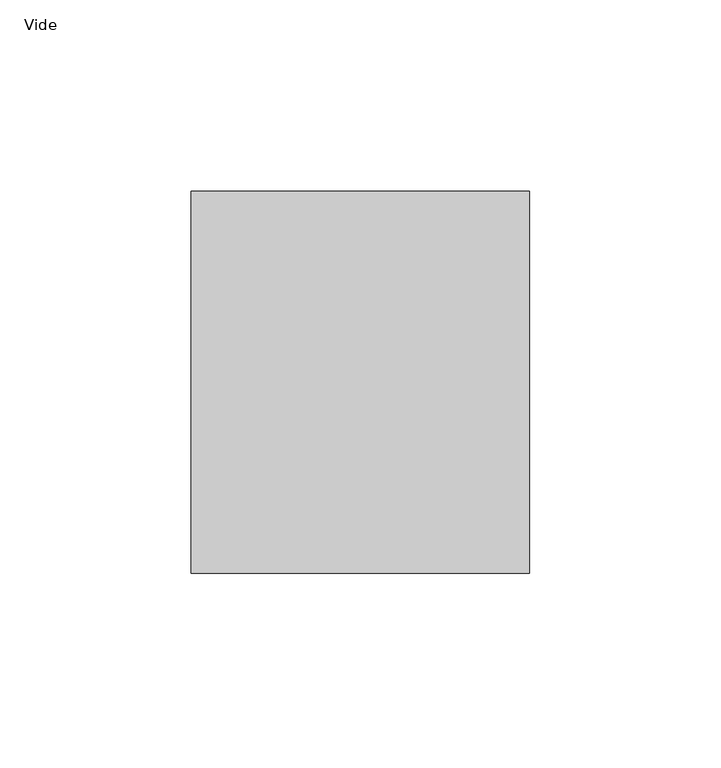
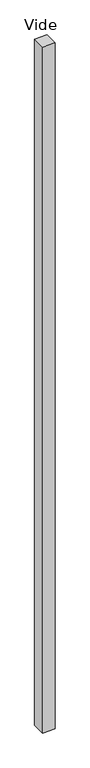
"""IFC4 building model written with IfcOpenShell, lengths in millimetres: plate geometry, Panneau système vide : Vide."""

from ifc_helpers import new_model, si_unit, origin, origin_with_axes, place, context, project, spatial, polyline, outline, extrude, source, transform, mapped, element, save


def vide_70e162ae(model_context):
    return source(origin(), model_context, "Body", "SweptSolid", [
        extrude(outline(polyline([(44.3099743, 50.0), (-44.3099743, 50.0), (-44.3099743, 150.0), (44.3099743, 150.0), (44.3099743, 50.0)])), origin_with_axes(), (0.0, 0.0, 1.0), 5176.3809021),
    ])


if __name__ == "__main__":
    model = new_model("IFC4")
    model_context = context("Model", 3, world=origin())
    ifc_project = project(units=[si_unit("LENGTHUNIT", "METRE", prefix="MILLI")], contexts=[model_context])
    site = spatial("IfcSite", under=ifc_project)
    building = spatial("IfcBuilding", under=site)
    placement = place(None, origin())
    vide_shape = vide_70e162ae(model_context)
    element("IfcPlate", 1, ObjectType="Panneau système vide : Vide", at=placement, inside=building, context=model_context, shape_type="MappedRepresentation", body=[
        mapped(vide_shape, transform((0.0, 0.0, 0.0), x_axis=(1.0, 0.0, 0.0), y_axis=(0.0, 1.0, 0.0), z_axis=(0.0, 0.0, 1.0))),
    ])
    save(model, "model.ifc")
